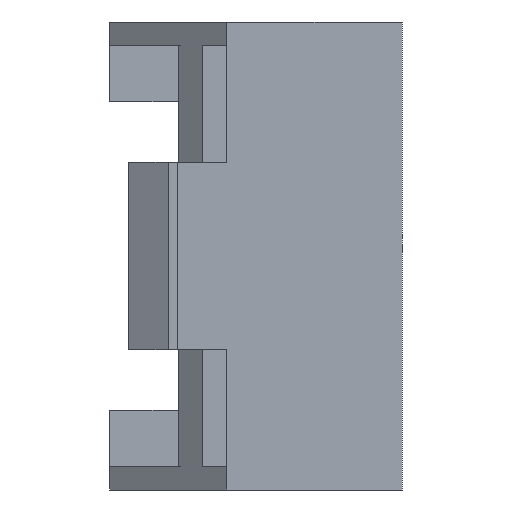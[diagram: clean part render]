
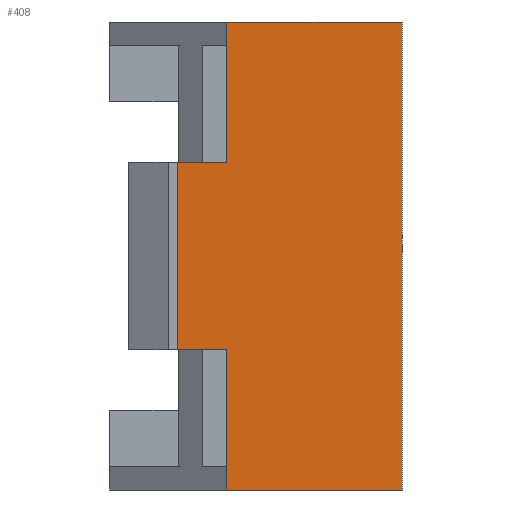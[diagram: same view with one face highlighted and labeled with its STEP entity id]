
A CAD part, front view. The second image highlights one B-rep face of the part: STEP entity #408.
In plain terms, the highlighted planar face has unit normal (0, -1, 0).
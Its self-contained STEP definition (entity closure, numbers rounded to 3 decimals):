
#33 = PLANE('',#34);
#34 = AXIS2_PLACEMENT_3D('',#35,#36,#37);
#35 = CARTESIAN_POINT('',(0.,0.,-10.));
#36 = DIRECTION('',(0.,0.,1.));
#37 = DIRECTION('',(1.,0.,-0.));
#202 = VERTEX_POINT('',#203);
#203 = CARTESIAN_POINT('',(-7.5,0.,-10.));
#217 = PLANE('',#218);
#218 = AXIS2_PLACEMENT_3D('',#219,#220,#221);
#219 = CARTESIAN_POINT('',(-7.5,8.8,-10.));
#220 = DIRECTION('',(-1.,0.,0.));
#221 = DIRECTION('',(0.,-1.,0.));
#229 = EDGE_CURVE('',#202,#230,#232,.T.);
#230 = VERTEX_POINT('',#231);
#231 = CARTESIAN_POINT('',(0.,0.,-10.));
#232 = SURFACE_CURVE('',#233,(#237,#244),.PCURVE_S1.);
#233 = LINE('',#234,#235);
#234 = CARTESIAN_POINT('',(-7.5,0.,-10.));
#235 = VECTOR('',#236,1.);
#236 = DIRECTION('',(1.,0.,0.));
#237 = PCURVE('',#33,#238);
#238 = DEFINITIONAL_REPRESENTATION('',(#239),#243);
#239 = LINE('',#240,#241);
#240 = CARTESIAN_POINT('',(-7.5,0.));
#241 = VECTOR('',#242,1.);
#242 = DIRECTION('',(1.,0.));
#243 = ( GEOMETRIC_REPRESENTATION_CONTEXT(2) 
PARAMETRIC_REPRESENTATION_CONTEXT() REPRESENTATION_CONTEXT('2D SPACE',''
  ) );
#244 = PCURVE('',#245,#250);
#245 = PLANE('',#246);
#246 = AXIS2_PLACEMENT_3D('',#247,#248,#249);
#247 = CARTESIAN_POINT('',(-9.6,0.,-10.));
#248 = DIRECTION('',(0.,-1.,0.));
#249 = DIRECTION('',(1.,0.,0.));
#250 = DEFINITIONAL_REPRESENTATION('',(#251),#255);
#251 = LINE('',#252,#253);
#252 = CARTESIAN_POINT('',(2.1,0.));
#253 = VECTOR('',#254,1.);
#254 = DIRECTION('',(1.,0.));
#255 = ( GEOMETRIC_REPRESENTATION_CONTEXT(2) 
PARAMETRIC_REPRESENTATION_CONTEXT() REPRESENTATION_CONTEXT('2D SPACE',''
  ) );
#271 = PLANE('',#272);
#272 = AXIS2_PLACEMENT_3D('',#273,#274,#275);
#273 = CARTESIAN_POINT('',(0.,0.,-10.));
#274 = DIRECTION('',(1.,0.,0.));
#275 = DIRECTION('',(-0.,1.,0.));
#326 = PLANE('',#327);
#327 = AXIS2_PLACEMENT_3D('',#328,#329,#330);
#328 = CARTESIAN_POINT('',(0.,0.,10.));
#329 = DIRECTION('',(0.,0.,1.));
#330 = DIRECTION('',(1.,0.,-0.));
#365 = EDGE_CURVE('',#230,#366,#368,.T.);
#366 = VERTEX_POINT('',#367);
#367 = CARTESIAN_POINT('',(0.,0.,10.));
#368 = SURFACE_CURVE('',#369,(#373,#380),.PCURVE_S1.);
#369 = LINE('',#370,#371);
#370 = CARTESIAN_POINT('',(0.,0.,-10.));
#371 = VECTOR('',#372,1.);
#372 = DIRECTION('',(0.,0.,1.));
#373 = PCURVE('',#271,#374);
#374 = DEFINITIONAL_REPRESENTATION('',(#375),#379);
#375 = LINE('',#376,#377);
#376 = CARTESIAN_POINT('',(0.,0.));
#377 = VECTOR('',#378,1.);
#378 = DIRECTION('',(0.,1.));
#379 = ( GEOMETRIC_REPRESENTATION_CONTEXT(2) 
PARAMETRIC_REPRESENTATION_CONTEXT() REPRESENTATION_CONTEXT('2D SPACE',''
  ) );
#380 = PCURVE('',#245,#381);
#381 = DEFINITIONAL_REPRESENTATION('',(#382),#386);
#382 = LINE('',#383,#384);
#383 = CARTESIAN_POINT('',(9.6,0.));
#384 = VECTOR('',#385,1.);
#385 = DIRECTION('',(0.,1.));
#386 = ( GEOMETRIC_REPRESENTATION_CONTEXT(2) 
PARAMETRIC_REPRESENTATION_CONTEXT() REPRESENTATION_CONTEXT('2D SPACE',''
  ) );
#408 = ADVANCED_FACE('',(#409),#245,.T.);
#409 = FACE_BOUND('',#410,.F.);
#410 = EDGE_LOOP('',(#411,#441,#469,#490,#491,#492,#515,#543));
#411 = ORIENTED_EDGE('',*,*,#412,.T.);
#412 = EDGE_CURVE('',#413,#415,#417,.T.);
#413 = VERTEX_POINT('',#414);
#414 = CARTESIAN_POINT('',(-9.6,0.,4.));
#415 = VERTEX_POINT('',#416);
#416 = CARTESIAN_POINT('',(-7.5,0.,4.));
#417 = SURFACE_CURVE('',#418,(#422,#429),.PCURVE_S1.);
#418 = LINE('',#419,#420);
#419 = CARTESIAN_POINT('',(-9.6,0.,4.));
#420 = VECTOR('',#421,1.);
#421 = DIRECTION('',(1.,0.,0.));
#422 = PCURVE('',#245,#423);
#423 = DEFINITIONAL_REPRESENTATION('',(#424),#428);
#424 = LINE('',#425,#426);
#425 = CARTESIAN_POINT('',(0.,14.));
#426 = VECTOR('',#427,1.);
#427 = DIRECTION('',(1.,0.));
#428 = ( GEOMETRIC_REPRESENTATION_CONTEXT(2) 
PARAMETRIC_REPRESENTATION_CONTEXT() REPRESENTATION_CONTEXT('2D SPACE',''
  ) );
#429 = PCURVE('',#430,#435);
#430 = PLANE('',#431);
#431 = AXIS2_PLACEMENT_3D('',#432,#433,#434);
#432 = CARTESIAN_POINT('',(-7.5,1.,4.));
#433 = DIRECTION('',(0.,0.,-1.));
#434 = DIRECTION('',(-1.,0.,0.));
#435 = DEFINITIONAL_REPRESENTATION('',(#436),#440);
#436 = LINE('',#437,#438);
#437 = CARTESIAN_POINT('',(2.1,-1.));
#438 = VECTOR('',#439,1.);
#439 = DIRECTION('',(-1.,0.));
#440 = ( GEOMETRIC_REPRESENTATION_CONTEXT(2) 
PARAMETRIC_REPRESENTATION_CONTEXT() REPRESENTATION_CONTEXT('2D SPACE',''
  ) );
#441 = ORIENTED_EDGE('',*,*,#442,.F.);
#442 = EDGE_CURVE('',#443,#415,#445,.T.);
#443 = VERTEX_POINT('',#444);
#444 = CARTESIAN_POINT('',(-7.5,0.,10.));
#445 = SURFACE_CURVE('',#446,(#450,#457),.PCURVE_S1.);
#446 = LINE('',#447,#448);
#447 = CARTESIAN_POINT('',(-7.5,0.,10.));
#448 = VECTOR('',#449,1.);
#449 = DIRECTION('',(0.,0.,-1.));
#450 = PCURVE('',#245,#451);
#451 = DEFINITIONAL_REPRESENTATION('',(#452),#456);
#452 = LINE('',#453,#454);
#453 = CARTESIAN_POINT('',(2.1,20.));
#454 = VECTOR('',#455,1.);
#455 = DIRECTION('',(0.,-1.));
#456 = ( GEOMETRIC_REPRESENTATION_CONTEXT(2) 
PARAMETRIC_REPRESENTATION_CONTEXT() REPRESENTATION_CONTEXT('2D SPACE',''
  ) );
#457 = PCURVE('',#458,#463);
#458 = PLANE('',#459);
#459 = AXIS2_PLACEMENT_3D('',#460,#461,#462);
#460 = CARTESIAN_POINT('',(-7.5,8.8,-10.));
#461 = DIRECTION('',(-1.,0.,0.));
#462 = DIRECTION('',(0.,-1.,0.));
#463 = DEFINITIONAL_REPRESENTATION('',(#464),#468);
#464 = LINE('',#465,#466);
#465 = CARTESIAN_POINT('',(8.8,20.));
#466 = VECTOR('',#467,1.);
#467 = DIRECTION('',(0.,-1.));
#468 = ( GEOMETRIC_REPRESENTATION_CONTEXT(2) 
PARAMETRIC_REPRESENTATION_CONTEXT() REPRESENTATION_CONTEXT('2D SPACE',''
  ) );
#469 = ORIENTED_EDGE('',*,*,#470,.T.);
#470 = EDGE_CURVE('',#443,#366,#471,.T.);
#471 = SURFACE_CURVE('',#472,(#476,#483),.PCURVE_S1.);
#472 = LINE('',#473,#474);
#473 = CARTESIAN_POINT('',(-7.5,0.,10.));
#474 = VECTOR('',#475,1.);
#475 = DIRECTION('',(1.,0.,0.));
#476 = PCURVE('',#245,#477);
#477 = DEFINITIONAL_REPRESENTATION('',(#478),#482);
#478 = LINE('',#479,#480);
#479 = CARTESIAN_POINT('',(2.1,20.));
#480 = VECTOR('',#481,1.);
#481 = DIRECTION('',(1.,0.));
#482 = ( GEOMETRIC_REPRESENTATION_CONTEXT(2) 
PARAMETRIC_REPRESENTATION_CONTEXT() REPRESENTATION_CONTEXT('2D SPACE',''
  ) );
#483 = PCURVE('',#326,#484);
#484 = DEFINITIONAL_REPRESENTATION('',(#485),#489);
#485 = LINE('',#486,#487);
#486 = CARTESIAN_POINT('',(-7.5,0.));
#487 = VECTOR('',#488,1.);
#488 = DIRECTION('',(1.,0.));
#489 = ( GEOMETRIC_REPRESENTATION_CONTEXT(2) 
PARAMETRIC_REPRESENTATION_CONTEXT() REPRESENTATION_CONTEXT('2D SPACE',''
  ) );
#490 = ORIENTED_EDGE('',*,*,#365,.F.);
#491 = ORIENTED_EDGE('',*,*,#229,.F.);
#492 = ORIENTED_EDGE('',*,*,#493,.T.);
#493 = EDGE_CURVE('',#202,#494,#496,.T.);
#494 = VERTEX_POINT('',#495);
#495 = CARTESIAN_POINT('',(-7.5,0.,-4.));
#496 = SURFACE_CURVE('',#497,(#501,#508),.PCURVE_S1.);
#497 = LINE('',#498,#499);
#498 = CARTESIAN_POINT('',(-7.5,0.,-10.));
#499 = VECTOR('',#500,1.);
#500 = DIRECTION('',(0.,0.,1.));
#501 = PCURVE('',#245,#502);
#502 = DEFINITIONAL_REPRESENTATION('',(#503),#507);
#503 = LINE('',#504,#505);
#504 = CARTESIAN_POINT('',(2.1,0.));
#505 = VECTOR('',#506,1.);
#506 = DIRECTION('',(0.,1.));
#507 = ( GEOMETRIC_REPRESENTATION_CONTEXT(2) 
PARAMETRIC_REPRESENTATION_CONTEXT() REPRESENTATION_CONTEXT('2D SPACE',''
  ) );
#508 = PCURVE('',#217,#509);
#509 = DEFINITIONAL_REPRESENTATION('',(#510),#514);
#510 = LINE('',#511,#512);
#511 = CARTESIAN_POINT('',(8.8,0.));
#512 = VECTOR('',#513,1.);
#513 = DIRECTION('',(0.,1.));
#514 = ( GEOMETRIC_REPRESENTATION_CONTEXT(2) 
PARAMETRIC_REPRESENTATION_CONTEXT() REPRESENTATION_CONTEXT('2D SPACE',''
  ) );
#515 = ORIENTED_EDGE('',*,*,#516,.F.);
#516 = EDGE_CURVE('',#517,#494,#519,.T.);
#517 = VERTEX_POINT('',#518);
#518 = CARTESIAN_POINT('',(-9.6,0.,-4.));
#519 = SURFACE_CURVE('',#520,(#524,#531),.PCURVE_S1.);
#520 = LINE('',#521,#522);
#521 = CARTESIAN_POINT('',(-9.6,0.,-4.));
#522 = VECTOR('',#523,1.);
#523 = DIRECTION('',(1.,0.,0.));
#524 = PCURVE('',#245,#525);
#525 = DEFINITIONAL_REPRESENTATION('',(#526),#530);
#526 = LINE('',#527,#528);
#527 = CARTESIAN_POINT('',(0.,6.));
#528 = VECTOR('',#529,1.);
#529 = DIRECTION('',(1.,0.));
#530 = ( GEOMETRIC_REPRESENTATION_CONTEXT(2) 
PARAMETRIC_REPRESENTATION_CONTEXT() REPRESENTATION_CONTEXT('2D SPACE',''
  ) );
#531 = PCURVE('',#532,#537);
#532 = PLANE('',#533);
#533 = AXIS2_PLACEMENT_3D('',#534,#535,#536);
#534 = CARTESIAN_POINT('',(-11.7,1.,-4.));
#535 = DIRECTION('',(0.,0.,1.));
#536 = DIRECTION('',(1.,0.,-0.));
#537 = DEFINITIONAL_REPRESENTATION('',(#538),#542);
#538 = LINE('',#539,#540);
#539 = CARTESIAN_POINT('',(2.1,-1.));
#540 = VECTOR('',#541,1.);
#541 = DIRECTION('',(1.,0.));
#542 = ( GEOMETRIC_REPRESENTATION_CONTEXT(2) 
PARAMETRIC_REPRESENTATION_CONTEXT() REPRESENTATION_CONTEXT('2D SPACE',''
  ) );
#543 = ORIENTED_EDGE('',*,*,#544,.T.);
#544 = EDGE_CURVE('',#517,#413,#545,.T.);
#545 = SURFACE_CURVE('',#546,(#550,#557),.PCURVE_S1.);
#546 = LINE('',#547,#548);
#547 = CARTESIAN_POINT('',(-9.6,0.,-4.));
#548 = VECTOR('',#549,1.);
#549 = DIRECTION('',(0.,0.,1.));
#550 = PCURVE('',#245,#551);
#551 = DEFINITIONAL_REPRESENTATION('',(#552),#556);
#552 = LINE('',#553,#554);
#553 = CARTESIAN_POINT('',(0.,6.));
#554 = VECTOR('',#555,1.);
#555 = DIRECTION('',(0.,1.));
#556 = ( GEOMETRIC_REPRESENTATION_CONTEXT(2) 
PARAMETRIC_REPRESENTATION_CONTEXT() REPRESENTATION_CONTEXT('2D SPACE',''
  ) );
#557 = PCURVE('',#558,#563);
#558 = PLANE('',#559);
#559 = AXIS2_PLACEMENT_3D('',#560,#561,#562);
#560 = CARTESIAN_POINT('',(-9.6,-1.,-10.));
#561 = DIRECTION('',(1.,0.,0.));
#562 = DIRECTION('',(-0.,1.,0.));
#563 = DEFINITIONAL_REPRESENTATION('',(#564),#568);
#564 = LINE('',#565,#566);
#565 = CARTESIAN_POINT('',(1.,6.));
#566 = VECTOR('',#567,1.);
#567 = DIRECTION('',(0.,1.));
#568 = ( GEOMETRIC_REPRESENTATION_CONTEXT(2) 
PARAMETRIC_REPRESENTATION_CONTEXT() REPRESENTATION_CONTEXT('2D SPACE',''
  ) );
